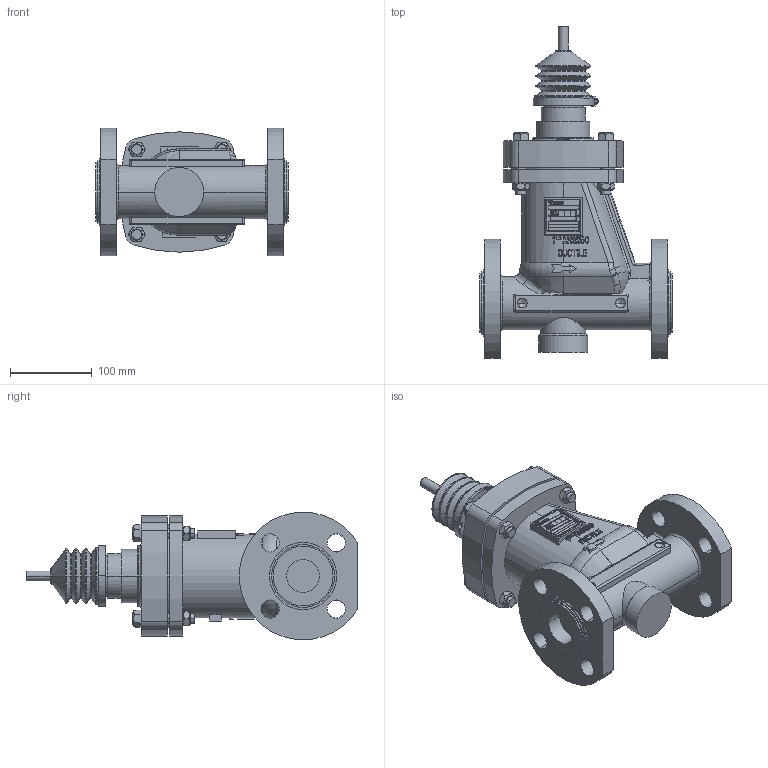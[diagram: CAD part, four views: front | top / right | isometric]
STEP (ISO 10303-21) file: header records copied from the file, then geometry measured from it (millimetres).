
FILE_DESCRIPTION((''),'2;1');
FILE_NAME('9560-00-5028_A_ASM','2014-04-04T',('SParmar1'),(''),'PRO/ENGINEER BY PARAMETRIC TECHNOLOGY CORPORATION, 2011040','PRO/ENGINEER BY PARAMETRIC TECHNOLOGY CORPORATION, 2011040','');
FILE_SCHEMA(('CONFIG_CONTROL_DESIGN'));
Products named in the file (6): 9567-13-2042; 9568-27-5105; 4188_11_1060; M12_X_65; M12_X_HEX_NUT; 9560-00-5028_A_ASM
Assembly tree (11 placements, depth 2):
  9560-00-5028_A_ASM
    9567-13-2042
    9568-27-5105
    4188_11_1060
    M12_X_65  x4
    M12_X_HEX_NUT  x4
Bounding box: 235 x 405.5 x 155.99 mm (x, y, z)
Volume: 3759438.9 mm3; surface area: 383921.4 mm2
Topology: 13 solids, 15 shells, 2792 faces, 7674 edges, 5046 vertices
Faces by surface type: plane 2400, cylinder 217, torus 54, cone 52, bspline 46, extrusion 17, sphere 6
Entity records: 87483 total; most frequent: CARTESIAN_POINT 18145, ORIENTED_EDGE 14970, DIRECTION 13165, EDGE_CURVE 7485, VECTOR 6693, LINE 6676, VERTEX_POINT 4932, AXIS2_PLACEMENT_3D 3236
